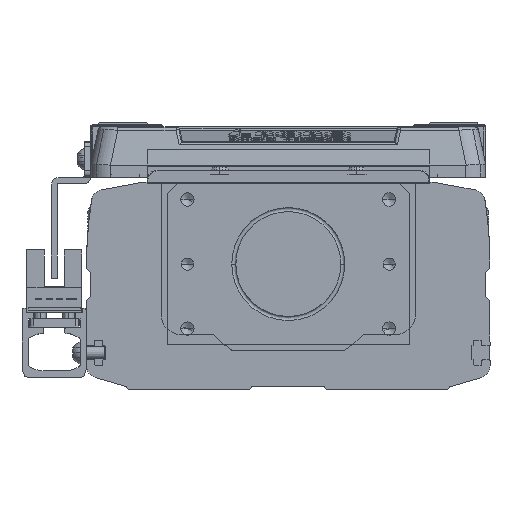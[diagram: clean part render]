
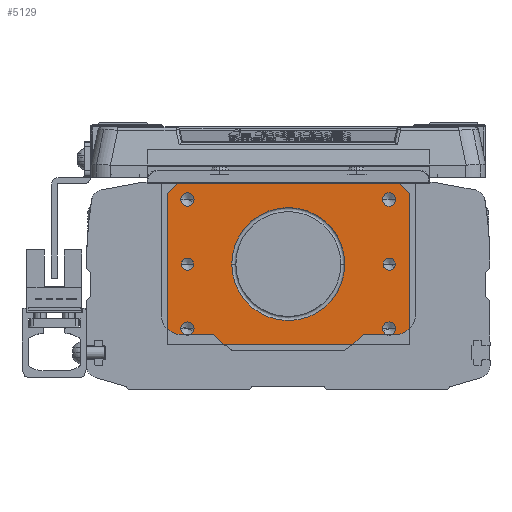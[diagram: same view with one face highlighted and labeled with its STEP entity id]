
A CAD part, left-side view. The second image highlights one B-rep face of the part: STEP entity #5129.
In plain terms, the highlighted planar face has unit normal (-1, 0, 0).
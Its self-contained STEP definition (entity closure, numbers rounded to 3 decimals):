
#5129=ADVANCED_FACE('',(#11167,#11168,#11169,#11170,#11171,#11172,#11173,#11174),#11175,.T.);
#11167=FACE_BOUND('',#18700,.T.);
#11168=FACE_BOUND('',#18701,.T.);
#11169=FACE_BOUND('',#18702,.T.);
#11170=FACE_BOUND('',#18703,.T.);
#11171=FACE_BOUND('',#18704,.T.);
#11172=FACE_BOUND('',#18705,.T.);
#11173=FACE_BOUND('',#18706,.T.);
#11174=FACE_OUTER_BOUND('',#18707,.T.);
#11175=PLANE('',#18708);
#18700=EDGE_LOOP('',(#33063,#33064));
#18701=EDGE_LOOP('',(#33065,#33066));
#18702=EDGE_LOOP('',(#33067,#33068));
#18703=EDGE_LOOP('',(#33069,#33070));
#18704=EDGE_LOOP('',(#33071,#33072));
#18705=EDGE_LOOP('',(#33073,#33074));
#18706=EDGE_LOOP('',(#33075,#33076,#33077));
#18707=EDGE_LOOP('',(#33078,#33079,#33080,#33081,#33082,#33083));
#18708=AXIS2_PLACEMENT_3D('',#33084,#33085,#33086);
#33063=ORIENTED_EDGE('',*,*,#48372,.T.);
#33064=ORIENTED_EDGE('',*,*,#47141,.T.);
#33065=ORIENTED_EDGE('',*,*,#48373,.T.);
#33066=ORIENTED_EDGE('',*,*,#48332,.T.);
#33067=ORIENTED_EDGE('',*,*,#48374,.T.);
#33068=ORIENTED_EDGE('',*,*,#44361,.T.);
#33069=ORIENTED_EDGE('',*,*,#48375,.T.);
#33070=ORIENTED_EDGE('',*,*,#44033,.T.);
#33071=ORIENTED_EDGE('',*,*,#46455,.T.);
#33072=ORIENTED_EDGE('',*,*,#48376,.T.);
#33073=ORIENTED_EDGE('',*,*,#45375,.T.);
#33074=ORIENTED_EDGE('',*,*,#48084,.T.);
#33075=ORIENTED_EDGE('',*,*,#42716,.T.);
#33076=ORIENTED_EDGE('',*,*,#47480,.T.);
#33077=ORIENTED_EDGE('',*,*,#42717,.T.);
#33078=ORIENTED_EDGE('',*,*,#48377,.F.);
#33079=ORIENTED_EDGE('',*,*,#48378,.F.);
#33080=ORIENTED_EDGE('',*,*,#48379,.T.);
#33081=ORIENTED_EDGE('',*,*,#48380,.T.);
#33082=ORIENTED_EDGE('',*,*,#48381,.F.);
#33083=ORIENTED_EDGE('',*,*,#44603,.T.);
#33084=CARTESIAN_POINT('',(-580.,0.,-20.));
#33085=DIRECTION('',(-1.0,0.,0.));
#33086=DIRECTION('',(0.,-1.0,0.));
#42716=EDGE_CURVE('',#50818,#50816,#50819,.T.);
#42717=EDGE_CURVE('',#50820,#50818,#50821,.T.);
#44033=EDGE_CURVE('',#53162,#53159,#53163,.T.);
#44361=EDGE_CURVE('',#53726,#53723,#53727,.T.);
#44603=EDGE_CURVE('',#54125,#54122,#54126,.T.);
#45375=EDGE_CURVE('',#55393,#55398,#55400,.T.);
#46455=EDGE_CURVE('',#57087,#57092,#57094,.T.);
#47141=EDGE_CURVE('',#58115,#58112,#58116,.T.);
#47480=EDGE_CURVE('',#50816,#50820,#58605,.T.);
#48084=EDGE_CURVE('',#55398,#55393,#59449,.T.);
#48332=EDGE_CURVE('',#59784,#59782,#59785,.T.);
#48372=EDGE_CURVE('',#58112,#58115,#59840,.T.);
#48373=EDGE_CURVE('',#59782,#59784,#59841,.T.);
#48374=EDGE_CURVE('',#53723,#53726,#59842,.T.);
#48375=EDGE_CURVE('',#53159,#53162,#59843,.T.);
#48376=EDGE_CURVE('',#57092,#57087,#59844,.T.);
#48377=EDGE_CURVE('',#59845,#54122,#59846,.T.);
#48378=EDGE_CURVE('',#59847,#59845,#59848,.T.);
#48379=EDGE_CURVE('',#59847,#59849,#59850,.T.);
#48380=EDGE_CURVE('',#59849,#59851,#59852,.T.);
#48381=EDGE_CURVE('',#54125,#59851,#59853,.T.);
#50816=VERTEX_POINT('',#62724);
#50818=VERTEX_POINT('',#62726);
#50819=CIRCLE('',#62727,14.0);
#50820=VERTEX_POINT('',#62728);
#50821=CIRCLE('',#62729,14.0);
#53159=VERTEX_POINT('',#65862);
#53162=VERTEX_POINT('',#65866);
#53163=CIRCLE('',#65867,1.65);
#53723=VERTEX_POINT('',#66612);
#53726=VERTEX_POINT('',#66616);
#53727=CIRCLE('',#66617,1.65);
#54122=VERTEX_POINT('',#67197);
#54125=VERTEX_POINT('',#67201);
#54126=LINE('',#67202,#67203);
#55393=VERTEX_POINT('',#68967);
#55398=VERTEX_POINT('',#68973);
#55400=CIRCLE('',#68976,1.65);
#57087=VERTEX_POINT('',#71272);
#57092=VERTEX_POINT('',#71278);
#57094=CIRCLE('',#71281,1.65);
#58112=VERTEX_POINT('',#72644);
#58115=VERTEX_POINT('',#72648);
#58116=CIRCLE('',#72649,1.5);
#58605=CIRCLE('',#73355,14.0);
#59449=CIRCLE('',#74688,1.65);
#59782=VERTEX_POINT('',#75152);
#59784=VERTEX_POINT('',#75155);
#59785=CIRCLE('',#75156,1.5);
#59840=CIRCLE('',#75230,1.5);
#59841=CIRCLE('',#75231,1.5);
#59842=CIRCLE('',#75232,1.65);
#59843=CIRCLE('',#75233,1.65);
#59844=CIRCLE('',#75234,1.65);
#59845=VERTEX_POINT('',#75235);
#59846=LINE('',#75236,#75237);
#59847=VERTEX_POINT('',#75238);
#59848=LINE('',#75239,#75240);
#59849=VERTEX_POINT('',#75241);
#59850=LINE('',#75242,#75243);
#59851=VERTEX_POINT('',#75244);
#59852=LINE('',#75245,#75246);
#59853=LINE('',#75247,#75248);
#62724=CARTESIAN_POINT('',(-580.,14.,0.));
#62726=CARTESIAN_POINT('',(-580.,0.,-14.));
#62727=AXIS2_PLACEMENT_3D('',#79008,#79009,#79010);
#62728=CARTESIAN_POINT('',(-580.,-14.,0.));
#62729=AXIS2_PLACEMENT_3D('',#79011,#79012,#79013);
#65862=CARTESIAN_POINT('',(-580.,26.65,-16.));
#65866=CARTESIAN_POINT('',(-580.,23.35,-16.));
#65867=AXIS2_PLACEMENT_3D('',#80869,#80870,#80871);
#66612=CARTESIAN_POINT('',(-580.,-26.65,-16.));
#66616=CARTESIAN_POINT('',(-580.,-23.35,-16.));
#66617=AXIS2_PLACEMENT_3D('',#81331,#81332,#81333);
#67197=CARTESIAN_POINT('',(-580.,27.5,20.));
#67201=CARTESIAN_POINT('',(-580.,-27.5,20.));
#67202=CARTESIAN_POINT('',(-580.,30.,20.));
#67203=VECTOR('',#81653,10.0);
#68967=CARTESIAN_POINT('',(-580.,-26.65,16.));
#68973=CARTESIAN_POINT('',(-580.,-23.35,16.));
#68976=AXIS2_PLACEMENT_3D('',#82703,#82704,#82705);
#71272=CARTESIAN_POINT('',(-580.,26.65,16.));
#71278=CARTESIAN_POINT('',(-580.,23.35,16.));
#71281=AXIS2_PLACEMENT_3D('',#84093,#84094,#84095);
#72644=CARTESIAN_POINT('',(-580.,-26.5,0.));
#72648=CARTESIAN_POINT('',(-580.,-23.5,0.));
#72649=AXIS2_PLACEMENT_3D('',#85011,#85012,#85013);
#73355=AXIS2_PLACEMENT_3D('',#85439,#85440,#85441);
#74688=AXIS2_PLACEMENT_3D('',#86147,#86148,#86149);
#75152=CARTESIAN_POINT('',(-580.,26.5,0.));
#75155=CARTESIAN_POINT('',(-580.,23.5,0.));
#75156=AXIS2_PLACEMENT_3D('',#86409,#86410,#86411);
#75230=AXIS2_PLACEMENT_3D('',#86461,#86462,#86463);
#75231=AXIS2_PLACEMENT_3D('',#86464,#86465,#86466);
#75232=AXIS2_PLACEMENT_3D('',#86467,#86468,#86469);
#75233=AXIS2_PLACEMENT_3D('',#86470,#86471,#86472);
#75234=AXIS2_PLACEMENT_3D('',#86473,#86474,#86475);
#75235=CARTESIAN_POINT('',(-580.,30.,17.5));
#75236=CARTESIAN_POINT('',(-580.,31.25,16.25));
#75237=VECTOR('',#86476,10.);
#75238=CARTESIAN_POINT('',(-580.,30.,-20.));
#75239=CARTESIAN_POINT('',(-580.,30.,-20.));
#75240=VECTOR('',#86477,10.0);
#75241=CARTESIAN_POINT('',(-580.,-30.,-20.));
#75242=CARTESIAN_POINT('',(-580.,30.,-20.));
#75243=VECTOR('',#86478,10.0);
#75244=CARTESIAN_POINT('',(-580.,-30.,17.5));
#75245=CARTESIAN_POINT('',(-580.,-30.,-20.));
#75246=VECTOR('',#86479,10.0);
#75247=CARTESIAN_POINT('',(-580.,-31.25,16.25));
#75248=VECTOR('',#86480,10.);
#79008=CARTESIAN_POINT('',(-580.,0.,0.));
#79009=DIRECTION('',(1.0,0.,0.));
#79010=DIRECTION('',(0.,0.,1.0));
#79011=CARTESIAN_POINT('',(-580.,0.,0.));
#79012=DIRECTION('',(1.0,0.,0.));
#79013=DIRECTION('',(0.,0.,1.0));
#80869=CARTESIAN_POINT('',(-580.,25.,-16.));
#80870=DIRECTION('',(1.0,0.,0.));
#80871=DIRECTION('',(0.,1.0,0.));
#81331=CARTESIAN_POINT('',(-580.,-25.,-16.));
#81332=DIRECTION('',(1.0,0.,0.));
#81333=DIRECTION('',(0.,-1.0,0.));
#81653=DIRECTION('',(0.,1.0,0.));
#82703=CARTESIAN_POINT('',(-580.,-25.,16.));
#82704=DIRECTION('',(1.0,0.,0.));
#82705=DIRECTION('',(0.,-1.0,0.));
#84093=CARTESIAN_POINT('',(-580.,25.,16.));
#84094=DIRECTION('',(1.0,0.,0.));
#84095=DIRECTION('',(0.,1.0,0.));
#85011=CARTESIAN_POINT('',(-580.,-25.,0.));
#85012=DIRECTION('',(1.0,0.,0.));
#85013=DIRECTION('',(0.,-1.0,0.));
#85439=CARTESIAN_POINT('',(-580.,0.,0.));
#85440=DIRECTION('',(1.0,0.,0.));
#85441=DIRECTION('',(0.,0.,1.0));
#86147=CARTESIAN_POINT('',(-580.,-25.,16.));
#86148=DIRECTION('',(1.0,0.,0.));
#86149=DIRECTION('',(0.,-1.0,0.));
#86409=CARTESIAN_POINT('',(-580.,25.,0.));
#86410=DIRECTION('',(1.0,0.,0.));
#86411=DIRECTION('',(0.,1.0,0.));
#86461=CARTESIAN_POINT('',(-580.,-25.,0.));
#86462=DIRECTION('',(1.0,0.,0.));
#86463=DIRECTION('',(0.,-1.0,0.));
#86464=CARTESIAN_POINT('',(-580.,25.,0.));
#86465=DIRECTION('',(1.0,0.,0.));
#86466=DIRECTION('',(0.,1.0,0.));
#86467=CARTESIAN_POINT('',(-580.,-25.,-16.));
#86468=DIRECTION('',(1.0,0.,0.));
#86469=DIRECTION('',(0.,-1.0,0.));
#86470=CARTESIAN_POINT('',(-580.,25.,-16.));
#86471=DIRECTION('',(1.0,0.,0.));
#86472=DIRECTION('',(0.,1.0,0.));
#86473=CARTESIAN_POINT('',(-580.,25.,16.));
#86474=DIRECTION('',(1.0,0.,0.));
#86475=DIRECTION('',(0.,1.0,0.));
#86476=DIRECTION('',(0.,-0.707,0.707));
#86477=DIRECTION('',(0.,0.,1.0));
#86478=DIRECTION('',(0.,-1.0,0.));
#86479=DIRECTION('',(0.,0.,1.0));
#86480=DIRECTION('',(0.0,-0.707,-0.707));
